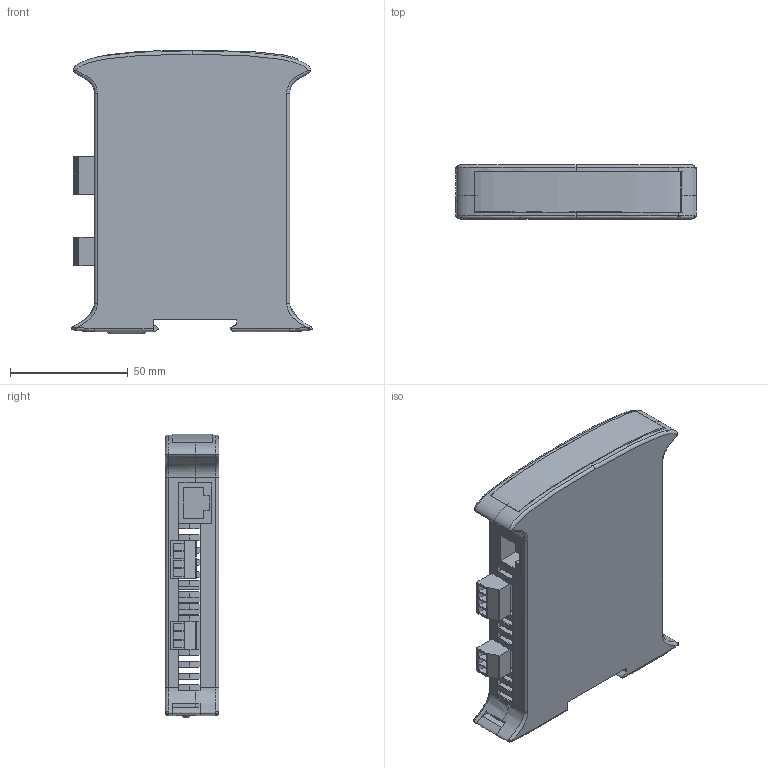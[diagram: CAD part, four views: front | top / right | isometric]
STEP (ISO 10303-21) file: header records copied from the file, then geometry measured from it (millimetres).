
FILE_DESCRIPTION (( 'STEP AP214' ), '1' );
FILE_NAME ('D128-003 PLX51-DF1-MSG R 1.0a.STEP', '2020-04-29T18:42:39', ( '' ), ( '' ), 'SwSTEP 2.0', 'SolidWorks 2015', '' );
FILE_SCHEMA (( 'AUTOMOTIVE_DESIGN' ));
Length unit declared in the file: millimetre
Products named in the file (12): Part1; enclosure; enclosure_bottom; faceplate cover; faceplate_DF1 Messenger; D128-003 PLX51-DF1-MSG R 1.0a; Light; clip; plugs_4; plugs; dipswitch; ethernetport
Assembly tree (37 placements, depth 2):
  D128-003 PLX51-DF1-MSG R 1.0a
    faceplate_DF1 Messenger
    faceplate cover
    enclosure_bottom
    enclosure
    Part1  x25
    ethernetport
    dipswitch
    plugs
    plugs_4
    clip
    Light  x3
Bounding box: 102.12 x 22.8 x 120.5 mm (x, y, z)
Volume: 84052.1 mm3; surface area: 67981 mm2
Topology: 70 solids, 70 shells, 1299 faces, 3195 edges, 2086 vertices
Faces by surface type: plane 1062, bspline 137, cylinder 93, torus 4, sphere 3
Entity records: 34447 total; most frequent: CARTESIAN_POINT 16122, ORIENTED_EDGE 3796, DIRECTION 2958, EDGE_CURVE 1898, VECTOR 1526, LINE 1526, VERTEX_POINT 1256, EDGE_LOOP 806
